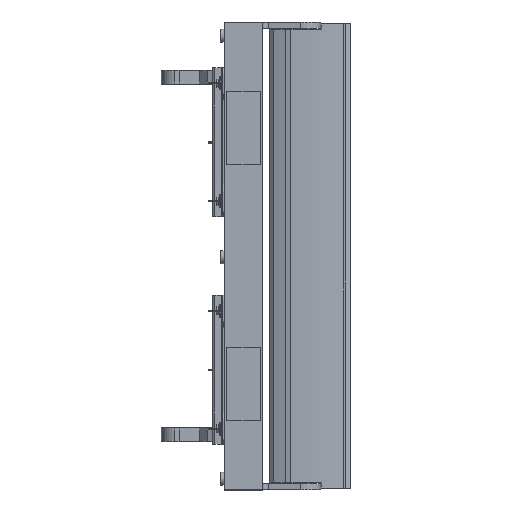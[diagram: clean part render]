
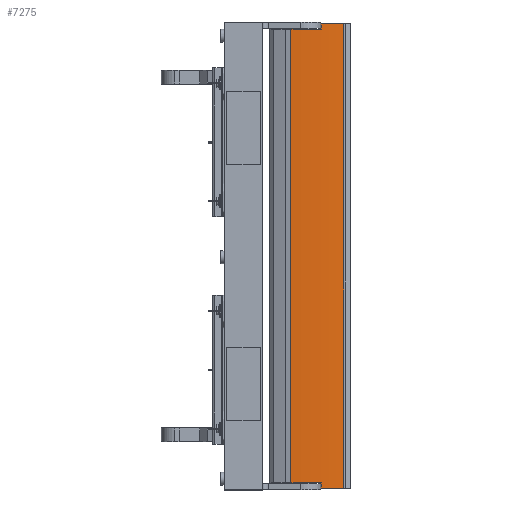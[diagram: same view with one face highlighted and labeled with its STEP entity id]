
A CAD part, top view. The second image highlights one B-rep face of the part: STEP entity #7275.
In plain terms, the highlighted cylindrical face has radius 717.98 mm (diameter 1435.96 mm), a partial arc.
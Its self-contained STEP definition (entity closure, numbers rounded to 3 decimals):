
#170=ELLIPSE('',#7943,41139.315,717.98);
#171=ELLIPSE('',#7945,41139.315,717.98);
#391=CYLINDRICAL_SURFACE('',#7942,717.98);
#627=LINE('',#11228,#1319);
#641=LINE('',#11257,#1333);
#1319=VECTOR('',#9014,1000.);
#1333=VECTOR('',#9040,1000.);
#2263=ORIENTED_EDGE('',*,*,#4232,.F.);
#2264=ORIENTED_EDGE('',*,*,#4212,.F.);
#2265=ORIENTED_EDGE('',*,*,#4233,.T.);
#2266=ORIENTED_EDGE('',*,*,#4234,.T.);
#2267=ORIENTED_EDGE('',*,*,#4235,.F.);
#2268=ORIENTED_EDGE('',*,*,#4236,.F.);
#2269=ORIENTED_EDGE('',*,*,#4218,.F.);
#2270=ORIENTED_EDGE('',*,*,#4237,.F.);
#4212=EDGE_CURVE('',#5226,#5221,#5749,.T.);
#4218=EDGE_CURVE('',#5231,#5233,#627,.T.);
#4232=EDGE_CURVE('',#5221,#5241,#170,.T.);
#4233=EDGE_CURVE('',#5226,#5242,#641,.T.);
#4234=EDGE_CURVE('',#5242,#5243,#5750,.T.);
#4235=EDGE_CURVE('',#5244,#5243,#171,.T.);
#4236=EDGE_CURVE('',#5233,#5244,#5751,.T.);
#4237=EDGE_CURVE('',#5241,#5231,#5752,.T.);
#5221=VERTEX_POINT('',#11202);
#5226=VERTEX_POINT('',#11213);
#5231=VERTEX_POINT('',#11226);
#5233=VERTEX_POINT('',#11229);
#5241=VERTEX_POINT('',#11256);
#5242=VERTEX_POINT('',#11258);
#5243=VERTEX_POINT('',#11260);
#5244=VERTEX_POINT('',#11262);
#5749=CIRCLE('',#7935,717.98);
#5750=CIRCLE('',#7944,717.98);
#5751=CIRCLE('',#7946,717.98);
#5752=CIRCLE('',#7947,717.98);
#6016=EDGE_LOOP('',(#2263,#2264,#2265,#2266,#2267,#2268,#2269,#2270));
#6544=FACE_BOUND('',#6016,.T.);
#7275=ADVANCED_FACE('',(#6544),#391,.T.);
#7935=AXIS2_PLACEMENT_3D('',#11214,#9003,#9004);
#7942=AXIS2_PLACEMENT_3D('',#11254,#9036,#9037);
#7943=AXIS2_PLACEMENT_3D('',#11255,#9038,#9039);
#7944=AXIS2_PLACEMENT_3D('',#11259,#9041,#9042);
#7945=AXIS2_PLACEMENT_3D('',#11261,#9043,#9044);
#7946=AXIS2_PLACEMENT_3D('',#11263,#9045,#9046);
#7947=AXIS2_PLACEMENT_3D('',#11264,#9047,#9048);
#9003=DIRECTION('',(0.,-1.,0.));
#9004=DIRECTION('',(1.,0.,0.));
#9014=DIRECTION('',(0.,1.,0.));
#9036=DIRECTION('',(0.,1.,0.));
#9037=DIRECTION('',(0.,0.,1.));
#9038=DIRECTION('',(-1.,-0.017,0.));
#9039=DIRECTION('',(-0.017,1.,0.));
#9040=DIRECTION('',(0.,1.,0.));
#9041=DIRECTION('',(0.,-1.,0.));
#9042=DIRECTION('',(1.,0.,0.));
#9043=DIRECTION('',(-1.,0.017,0.));
#9044=DIRECTION('',(0.017,1.,0.));
#9045=DIRECTION('',(0.,1.,0.));
#9046=DIRECTION('',(0.,0.,1.));
#9047=DIRECTION('',(0.,-1.,0.));
#9048=DIRECTION('',(0.,0.,-1.));
#11202=CARTESIAN_POINT('',(207.384,-500.,50.448));
#11213=CARTESIAN_POINT('',(255.3,-500.,45.5));
#11214=CARTESIAN_POINT('',(157.628,-500.,-665.806));
#11226=CARTESIAN_POINT('',(141.8,-488.,52.));
#11228=CARTESIAN_POINT('',(141.8,-500.,52.));
#11229=CARTESIAN_POINT('',(141.8,488.,52.));
#11254=CARTESIAN_POINT('',(157.628,-500.,-665.806));
#11255=CARTESIAN_POINT('',(157.628,2350.51,-665.806));
#11256=CARTESIAN_POINT('',(207.175,-488.,50.463));
#11257=CARTESIAN_POINT('',(255.3,-500.,45.5));
#11258=CARTESIAN_POINT('',(255.3,500.,45.5));
#11259=CARTESIAN_POINT('',(157.628,500.,-665.806));
#11260=CARTESIAN_POINT('',(207.384,500.,50.448));
#11261=CARTESIAN_POINT('',(157.628,-2350.51,-665.806));
#11262=CARTESIAN_POINT('',(207.175,488.,50.463));
#11263=CARTESIAN_POINT('',(157.628,488.,-665.806));
#11264=CARTESIAN_POINT('',(157.628,-488.,-665.806));
